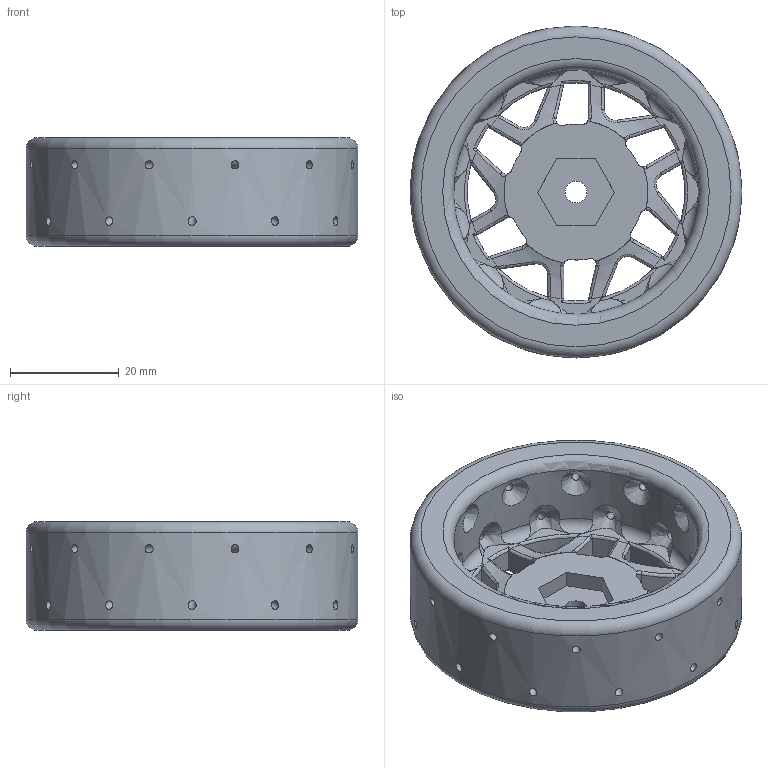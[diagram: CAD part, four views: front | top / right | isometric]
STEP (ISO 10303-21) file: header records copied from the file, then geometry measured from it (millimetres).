
FILE_DESCRIPTION(/* description */ (''),/* implementation_level */ '2;1');
FILE_NAME(/* name */ 'C:\Users\rjacobs\Documents\Inventor\ice wiel\wiel schuin 2.stp',/* time_stamp */ '2017-11-29T09:02:04+01:00',/* author */ ('rjacobs'),/* organization */ (''),/* preprocessor_version */ 'ST-DEVELOPER v15.6',/* originating_system */ 'Autodesk Inventor 2015',/* authorisation */ '');
FILE_SCHEMA (('AUTOMOTIVE_DESIGN { 1 0 10303 214 3 1 1 }'));
Length unit declared in the file: millimetre
Products named in the file (1): wiel schuin 2
Bounding box: 61 x 61 x 20 mm (x, y, z)
Volume: 31370.2 mm3; surface area: 12892.7 mm2
Topology: 1 solids, 1 shells, 314 faces, 855 edges, 521 vertices
Faces by surface type: cylinder 117, bspline 78, torus 71, plane 47, cone 1
Full cylindrical faces by diameter (mm): 1.5 x24, 4 x1, 45 x1, 61 x1
Entity records: 18706 total; most frequent: CARTESIAN_POINT 11655, ORIENTED_EDGE 1584, DIRECTION 1230, EDGE_CURVE 792, AXIS2_PLACEMENT_3D 519, VERTEX_POINT 492, EDGE_LOOP 400, B_SPLINE_CURVE_WITH_KNOTS 318
